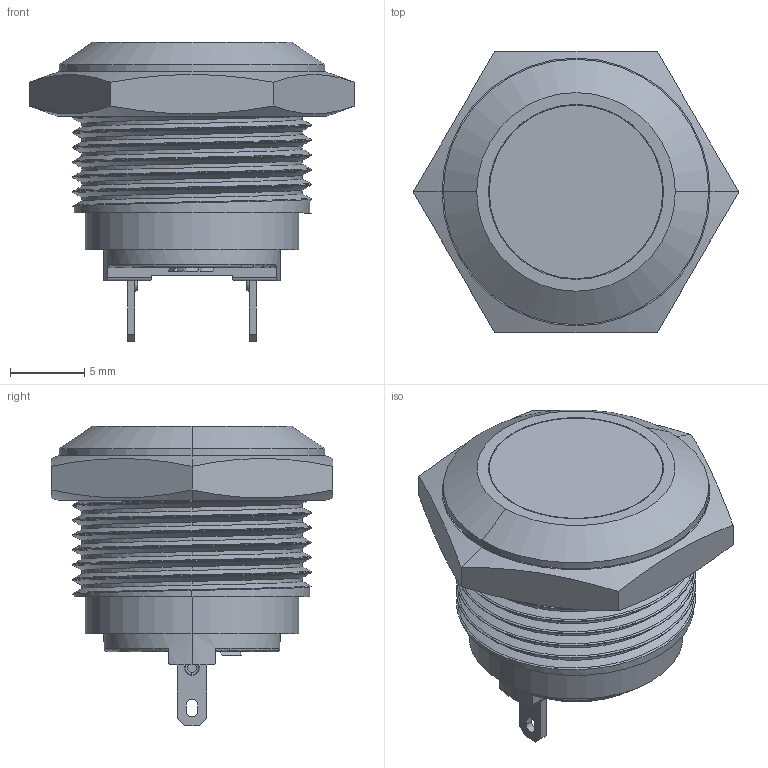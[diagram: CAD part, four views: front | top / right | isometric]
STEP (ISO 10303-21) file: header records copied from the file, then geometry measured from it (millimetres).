
FILE_DESCRIPTION(/* description */ (''),/* implementation_level */ '2;1');
FILE_NAME(/* name */ 'FM16E-SFP-10.stp',/* time_stamp */ '2020-07-08T15:32:12+08:00',/* author */ (''),/* organization */ (''),/* preprocessor_version */ 'ST-DEVELOPER v16.7',/* originating_system */ 'SIEMENS PLM Software NX 12.0',/* authorisation */ '');
FILE_SCHEMA (('AUTOMOTIVE_DESIGN { 1 0 10303 214 3 1 1 1 }'));
Length unit declared in the file: millimetre
Products named in the file (1): Admi5394C1BD4r26
Bounding box: 21.94 x 19 x 20.2 mm (x, y, z)
Volume: 590.5 mm3; surface area: 6129.5 mm2
Topology: 10 solids, 17 shells, 361 faces, 965 edges, 649 vertices
Faces by surface type: cylinder 156, plane 155, torus 22, cone 12, bspline 8, sphere 4, extrusion 4
Entity records: 15628 total; most frequent: CARTESIAN_POINT 6482, ORIENTED_EDGE 1722, DIRECTION 1624, EDGE_CURVE 960, VERTEX_POINT 644, AXIS2_PLACEMENT_3D 594, VECTOR 436, LINE 432
